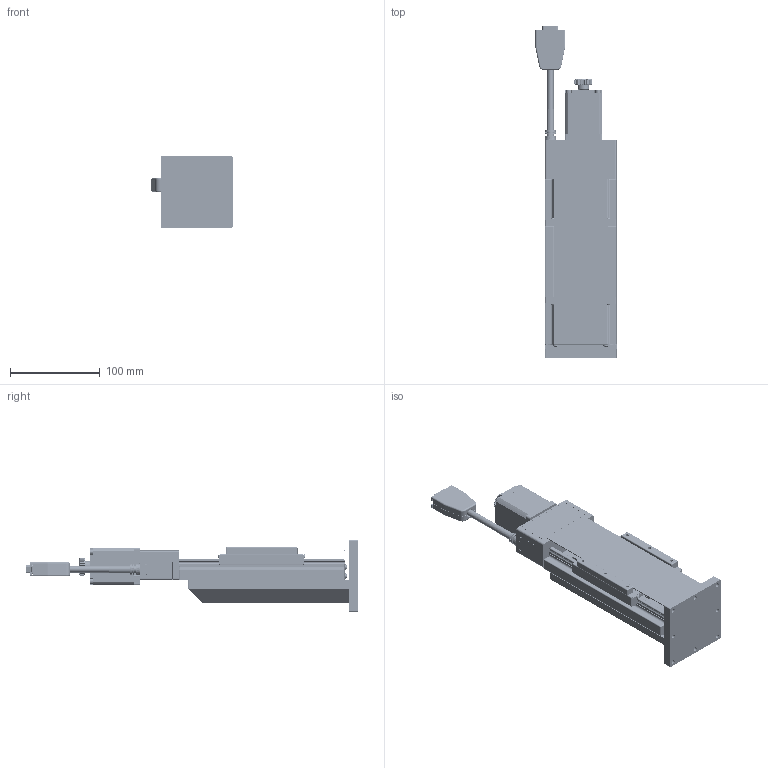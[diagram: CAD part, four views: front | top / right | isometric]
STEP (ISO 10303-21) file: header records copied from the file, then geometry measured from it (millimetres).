
FILE_DESCRIPTION (( 'STEP AP203' ), '1' );
FILE_NAME ('CZLC8075-S2?N.STEP', '2023-10-02T05:59:21', ( '' ), ( '' ), 'SwSTEP 2.0', 'SolidWorks 2019', '' );
FILE_SCHEMA (( 'CONFIG_CONTROL_DESIGN' ));
Products named in the file (4): Group1^CZLC8075-S2?N(2023新版)_defeature_GMT; CXN80-1_GMT; Group2^CZLC8075-S2?N(2023新版)_defeature_GMT; CZLC8075-S2?N
Assembly tree (3 placements, depth 2):
  CZLC8075-S2?N
    Group1^CZLC8075-S2?N(2023新版)_defeature_GMT
    Group2^CZLC8075-S2?N(2023新版)_defeature_GMT
    CXN80-1_GMT
Bounding box: 90.5 x 370.6 x 80 mm (x, y, z)
Volume: 71987.3 mm3; surface area: 250012.4 mm2
Topology: 22 solids, 59 shells, 5302 faces, 13675 edges, 8484 vertices
Faces by surface type: plane 1651, cylinder 1601, cone 1020, torus 562, bspline 290, sphere 178
Entity records: 175931 total; most frequent: CARTESIAN_POINT 47336, DIRECTION 27725, ORIENTED_EDGE 26890, EDGE_CURVE 13445, AXIS2_PLACEMENT_3D 10941, VERTEX_POINT 8412, CIRCLE 5922, VECTOR 5843
